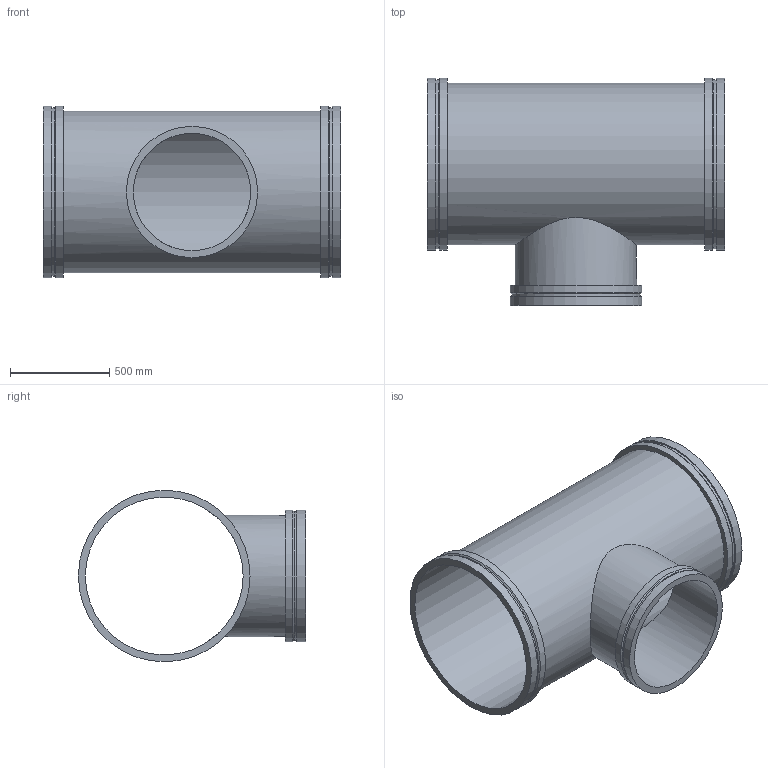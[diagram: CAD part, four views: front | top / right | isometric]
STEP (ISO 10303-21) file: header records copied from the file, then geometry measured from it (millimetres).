
FILE_DESCRIPTION(/* description */ ('VIC REDUCING TEE No W025 VR','CAx-IF Rec.Pracs.---Representation and Presentation of Product Manufacturing Information (PMI)---4.0---2014-10-13'),/* implementation_level */ '2;1');
FILE_NAME(/* name */ 'C:\Users\kkamble\AppData\Roaming\Autodesk\ApplicationPlugins\Back Up\Victaulic_Vic-Ring_Tee Reducing_No W25 VR (AGR)\Victaulic_Vic-Ring_Tee Reducing_No W25 VR (AGR)_32.0x24.0 (800x600).stp',/* time_stamp */ '2020-09-10T11:54:40+05:00',/* author */ ('mchristi'),/* organization */ ('Victaulic'),/* preprocessor_version */ 'ST-DEVELOPER v17.2',/* originating_system */ 'Autodesk Inventor 2019',/* authorisation */ '');
FILE_SCHEMA (('AP242_MANAGED_MODEL_BASED_3D_ENGINEERING_MIM_LF { 1 0 10303 442 1 1 4 }'));
Length unit declared in the file: inch
Products named in the file (1): W25 VR-32.0x24.0
Bounding box: 1498.6 x 1143 x 863.6 mm (x, y, z)
Volume: 57662475.2 mm3; surface area: 8914646.1 mm2
Topology: 1 solids, 1 shells, 25 faces, 68 edges, 52 vertices
Faces by surface type: cylinder 13, plane 9, cone 3
Full cylindrical faces by diameter (mm): 590.55 x1, 609.6 x1, 645.922 x1, 660.4 x2, 793.75 x1, 812.8 x1, 849.122 x2, 863.6 x4
Entity records: 1251 total; most frequent: CARTESIAN_POINT 407, DIRECTION 190, ORIENTED_EDGE 136, AXIS2_PLACEMENT_3D 87, EDGE_CURVE 68, VERTEX_POINT 52, CIRCLE 48, EDGE_LOOP 36
